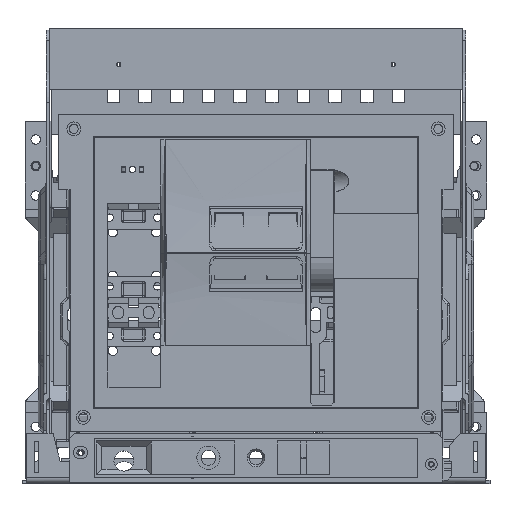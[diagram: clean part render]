
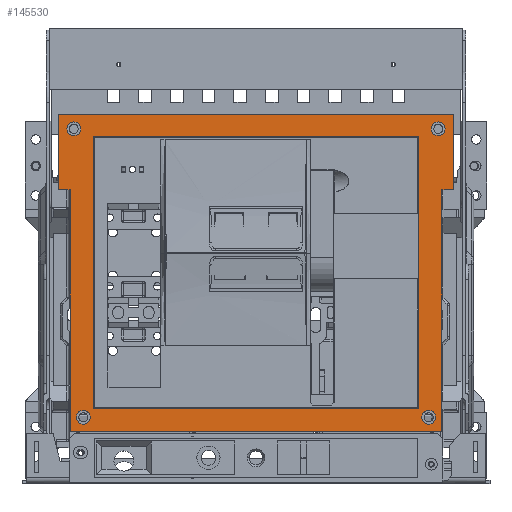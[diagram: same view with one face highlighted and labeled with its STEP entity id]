
A CAD part, top view. The second image highlights one B-rep face of the part: STEP entity #145530.
In plain terms, the highlighted planar face has unit normal (0, 0, 1) as drawn and (0, -1, 0) by its records, which use the part's own axes.
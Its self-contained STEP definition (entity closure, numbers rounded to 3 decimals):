
#133804=DIRECTION('',(0.,0.,-1.));
#133805=VECTOR('',#133804,256.);
#133806=CARTESIAN_POINT('',(154.,44.,117.5));
#133807=LINE('',#133806,#133805);
#133833=CARTESIAN_POINT('',(153.,44.,117.5));
#133834=DIRECTION('',(0.,1.,0.));
#133835=DIRECTION('',(0.,0.,1.));
#133836=AXIS2_PLACEMENT_3D('',#133833,#133834,#133835);
#133871=DIRECTION('',(-1.,0.,0.));
#133872=VECTOR('',#133871,306.);
#133873=CARTESIAN_POINT('',(153.,44.,118.5));
#133874=LINE('',#133873,#133872);
#133900=CARTESIAN_POINT('',(-153.,44.,117.5));
#133901=DIRECTION('',(0.,1.,0.));
#133902=DIRECTION('',(-1.,0.,0.));
#133903=AXIS2_PLACEMENT_3D('',#133900,#133901,#133902);
#133968=DIRECTION('',(0.,0.,1.));
#133969=VECTOR('',#133968,256.);
#133970=CARTESIAN_POINT('',(-154.,44.,-138.5));
#133971=LINE('',#133970,#133969);
#133997=CARTESIAN_POINT('',(-153.,44.,-138.5));
#133998=DIRECTION('',(0.,1.,0.));
#133999=DIRECTION('',(0.,0.,-1.));
#134000=AXIS2_PLACEMENT_3D('',#133997,#133998,#133999);
#134057=CARTESIAN_POINT('',(153.,44.,-138.5));
#134058=DIRECTION('',(0.,1.,0.));
#134059=DIRECTION('',(1.,0.,0.));
#134060=AXIS2_PLACEMENT_3D('',#134057,#134058,#134059);
#134065=DIRECTION('',(-1.,0.,0.));
#134066=VECTOR('',#134065,306.);
#134067=CARTESIAN_POINT('',(153.,44.,-139.5));
#134068=LINE('',#134067,#134066);
#134072=CARTESIAN_POINT('',(-163.5,44.,126.5));
#134073=DIRECTION('',(0.,-1.,0.));
#134074=DIRECTION('',(-1.,0.,0.));
#134075=AXIS2_PLACEMENT_3D('',#134072,#134073,#134074);
#134080=CARTESIAN_POINT('',(-163.5,44.,126.5));
#134081=DIRECTION('',(0.,-1.,0.));
#134082=DIRECTION('',(1.,0.,0.));
#134083=AXIS2_PLACEMENT_3D('',#134080,#134081,#134082);
#134088=CARTESIAN_POINT('',(163.5,44.,126.5));
#134089=DIRECTION('',(0.,-1.,0.));
#134090=DIRECTION('',(-1.,0.,0.));
#134091=AXIS2_PLACEMENT_3D('',#134088,#134089,#134090);
#134096=CARTESIAN_POINT('',(163.5,44.,126.5));
#134097=DIRECTION('',(0.,-1.,0.));
#134098=DIRECTION('',(1.,0.,0.));
#134099=AXIS2_PLACEMENT_3D('',#134096,#134097,#134098);
#134104=CARTESIAN_POINT('',(172.5,44.,-146.5));
#134105=DIRECTION('',(0.,-1.,0.));
#134106=DIRECTION('',(-1.,0.,0.));
#134107=AXIS2_PLACEMENT_3D('',#134104,#134105,#134106);
#134112=CARTESIAN_POINT('',(172.5,44.,-146.5));
#134113=DIRECTION('',(0.,-1.,0.));
#134114=DIRECTION('',(1.,0.,0.));
#134115=AXIS2_PLACEMENT_3D('',#134112,#134113,#134114);
#134120=CARTESIAN_POINT('',(-172.5,44.,-146.5));
#134121=DIRECTION('',(0.,-1.,0.));
#134122=DIRECTION('',(-1.,0.,0.));
#134123=AXIS2_PLACEMENT_3D('',#134120,#134121,#134122);
#134128=CARTESIAN_POINT('',(-172.5,44.,-146.5));
#134129=DIRECTION('',(0.,-1.,0.));
#134130=DIRECTION('',(1.,0.,0.));
#134131=AXIS2_PLACEMENT_3D('',#134128,#134129,#134130);
#134136=DIRECTION('',(0.,0.,1.));
#134137=VECTOR('',#134136,229.);
#134138=CARTESIAN_POINT('',(-176.,44.,-89.));
#134139=LINE('',#134138,#134137);
#134143=DIRECTION('',(0.,0.,-1.));
#134144=VECTOR('',#134143,229.);
#134145=CARTESIAN_POINT('',(176.,44.,140.));
#134146=LINE('',#134145,#134144);
#134150=DIRECTION('',(-1.,0.,0.));
#134151=VECTOR('',#134150,11.);
#134152=CARTESIAN_POINT('',(187.,44.,-89.));
#134153=LINE('',#134152,#134151);
#134157=DIRECTION('',(0.,0.,1.));
#134158=VECTOR('',#134157,71.);
#134159=CARTESIAN_POINT('',(187.,44.,-160.));
#134160=LINE('',#134159,#134158);
#134164=DIRECTION('',(1.,0.,0.));
#134165=VECTOR('',#134164,374.);
#134166=CARTESIAN_POINT('',(-187.,44.,-160.));
#134167=LINE('',#134166,#134165);
#134171=DIRECTION('',(0.,0.,-1.));
#134172=VECTOR('',#134171,71.);
#134173=CARTESIAN_POINT('',(-187.,44.,-89.));
#134174=LINE('',#134173,#134172);
#134178=DIRECTION('',(-1.,0.,0.));
#134179=VECTOR('',#134178,11.);
#134180=CARTESIAN_POINT('',(-176.,44.,-89.));
#134181=LINE('',#134180,#134179);
#140651=DIRECTION('',(1.,0.,0.));
#140652=VECTOR('',#140651,352.);
#140653=CARTESIAN_POINT('',(-176.,44.,140.));
#140654=LINE('',#140653,#140652);
#143431=CARTESIAN_POINT('',(-187.,44.,-89.));
#143432=CARTESIAN_POINT('',(-187.,44.,-160.));
#143433=VERTEX_POINT('',#143431);
#143434=VERTEX_POINT('',#143432);
#143435=CARTESIAN_POINT('',(187.,44.,-160.));
#143436=VERTEX_POINT('',#143435);
#143437=CARTESIAN_POINT('',(187.,44.,-89.));
#143438=VERTEX_POINT('',#143437);
#143443=CARTESIAN_POINT('',(-176.,44.,140.));
#143444=CARTESIAN_POINT('',(176.,44.,140.));
#143445=VERTEX_POINT('',#143443);
#143446=VERTEX_POINT('',#143444);
#144527=CARTESIAN_POINT('',(157.,44.,126.5));
#144528=CARTESIAN_POINT('',(170.,44.,126.5));
#144529=VERTEX_POINT('',#144527);
#144530=VERTEX_POINT('',#144528);
#144531=CARTESIAN_POINT('',(-170.,44.,126.5));
#144532=CARTESIAN_POINT('',(-157.,44.,126.5));
#144533=VERTEX_POINT('',#144531);
#144534=VERTEX_POINT('',#144532);
#144814=CARTESIAN_POINT('',(-176.,44.,-89.));
#144815=VERTEX_POINT('',#144814);
#144816=CARTESIAN_POINT('',(176.,44.,-89.));
#144817=VERTEX_POINT('',#144816);
#144893=CARTESIAN_POINT('',(-154.,44.,-138.5));
#144895=VERTEX_POINT('',#144893);
#144897=CARTESIAN_POINT('',(-153.,44.,-139.5));
#144899=VERTEX_POINT('',#144897);
#144900=CARTESIAN_POINT('',(-153.,44.,118.5));
#144902=VERTEX_POINT('',#144900);
#144904=CARTESIAN_POINT('',(-154.,44.,117.5));
#144906=VERTEX_POINT('',#144904);
#144909=CARTESIAN_POINT('',(154.,44.,117.5));
#144911=VERTEX_POINT('',#144909);
#144913=CARTESIAN_POINT('',(153.,44.,118.5));
#144915=VERTEX_POINT('',#144913);
#144936=CARTESIAN_POINT('',(153.,44.,-139.5));
#144937=VERTEX_POINT('',#144936);
#144938=CARTESIAN_POINT('',(154.,44.,-138.5));
#144939=VERTEX_POINT('',#144938);
#144948=CARTESIAN_POINT('',(166.,44.,-146.5));
#144949=CARTESIAN_POINT('',(179.,44.,-146.5));
#144950=VERTEX_POINT('',#144948);
#144951=VERTEX_POINT('',#144949);
#144952=CARTESIAN_POINT('',(-179.,44.,-146.5));
#144953=CARTESIAN_POINT('',(-166.,44.,-146.5));
#144954=VERTEX_POINT('',#144952);
#144955=VERTEX_POINT('',#144953);
#145473=CARTESIAN_POINT('',(0.,44.,0.));
#145474=DIRECTION('',(0.,-1.,0.));
#145475=DIRECTION('',(0.,0.,-1.));
#145476=AXIS2_PLACEMENT_3D('',#145473,#145474,#145475);
#145477=PLANE('',#145476);
#145479=ORIENTED_EDGE('',*,*,#145478,.T.);
#145481=ORIENTED_EDGE('',*,*,#145480,.T.);
#145483=ORIENTED_EDGE('',*,*,#145482,.T.);
#145485=ORIENTED_EDGE('',*,*,#145484,.F.);
#145487=ORIENTED_EDGE('',*,*,#145486,.F.);
#145489=ORIENTED_EDGE('',*,*,#145488,.F.);
#145491=ORIENTED_EDGE('',*,*,#145490,.F.);
#145493=ORIENTED_EDGE('',*,*,#145492,.F.);
#145494=EDGE_LOOP('',(#145479,#145481,#145483,#145485,#145487,#145489,#145491,
#145493));
#145495=FACE_OUTER_BOUND('',#145494,.F.);
#145497=ORIENTED_EDGE('',*,*,#145496,.T.);
#145499=ORIENTED_EDGE('',*,*,#145498,.T.);
#145500=EDGE_LOOP('',(#145497,#145499));
#145501=FACE_BOUND('',#145500,.F.);
#145503=ORIENTED_EDGE('',*,*,#145502,.T.);
#145505=ORIENTED_EDGE('',*,*,#145504,.T.);
#145506=EDGE_LOOP('',(#145503,#145505));
#145507=FACE_BOUND('',#145506,.F.);
#145509=ORIENTED_EDGE('',*,*,#145508,.T.);
#145511=ORIENTED_EDGE('',*,*,#145510,.T.);
#145512=EDGE_LOOP('',(#145509,#145511));
#145513=FACE_BOUND('',#145512,.F.);
#145515=ORIENTED_EDGE('',*,*,#145514,.T.);
#145517=ORIENTED_EDGE('',*,*,#145516,.T.);
#145518=EDGE_LOOP('',(#145515,#145517));
#145519=FACE_BOUND('',#145518,.F.);
#145520=ORIENTED_EDGE('',*,*,#145268,.F.);
#145521=ORIENTED_EDGE('',*,*,#145286,.F.);
#145522=ORIENTED_EDGE('',*,*,#145324,.T.);
#145523=ORIENTED_EDGE('',*,*,#145341,.F.);
#145524=ORIENTED_EDGE('',*,*,#145386,.F.);
#145525=ORIENTED_EDGE('',*,*,#145403,.F.);
#145526=ORIENTED_EDGE('',*,*,#145468,.F.);
#145527=ORIENTED_EDGE('',*,*,#145455,.F.);
#145528=EDGE_LOOP('',(#145520,#145521,#145522,#145523,#145524,#145525,#145526,
#145527));
#145529=FACE_BOUND('',#145528,.F.);
#145530=ADVANCED_FACE('',(#145495,#145501,#145507,#145513,#145519,#145529),
#145477,.T.);
#133837=CIRCLE('',#133836,1.);
#133904=CIRCLE('',#133903,1.);
#134001=CIRCLE('',#134000,1.);
#134061=CIRCLE('',#134060,1.);
#134076=CIRCLE('',#134075,6.5);
#134084=CIRCLE('',#134083,6.5);
#134092=CIRCLE('',#134091,6.5);
#134100=CIRCLE('',#134099,6.5);
#134108=CIRCLE('',#134107,6.5);
#134116=CIRCLE('',#134115,6.5);
#134124=CIRCLE('',#134123,6.5);
#134132=CIRCLE('',#134131,6.5);
#145268=EDGE_CURVE('',#144911,#144939,#133807,.T.);
#145286=EDGE_CURVE('',#144915,#144911,#133837,.T.);
#145324=EDGE_CURVE('',#144915,#144902,#133874,.T.);
#145341=EDGE_CURVE('',#144906,#144902,#133904,.T.);
#145386=EDGE_CURVE('',#144895,#144906,#133971,.T.);
#145403=EDGE_CURVE('',#144899,#144895,#134001,.T.);
#145455=EDGE_CURVE('',#144939,#144937,#134061,.T.);
#145468=EDGE_CURVE('',#144937,#144899,#134068,.T.);
#145478=EDGE_CURVE('',#144815,#143445,#134139,.T.);
#145480=EDGE_CURVE('',#143445,#143446,#140654,.T.);
#145482=EDGE_CURVE('',#143446,#144817,#134146,.T.);
#145484=EDGE_CURVE('',#143438,#144817,#134153,.T.);
#145486=EDGE_CURVE('',#143436,#143438,#134160,.T.);
#145488=EDGE_CURVE('',#143434,#143436,#134167,.T.);
#145490=EDGE_CURVE('',#143433,#143434,#134174,.T.);
#145492=EDGE_CURVE('',#144815,#143433,#134181,.T.);
#145496=EDGE_CURVE('',#144529,#144530,#134092,.T.);
#145498=EDGE_CURVE('',#144530,#144529,#134100,.T.);
#145502=EDGE_CURVE('',#144950,#144951,#134108,.T.);
#145504=EDGE_CURVE('',#144951,#144950,#134116,.T.);
#145508=EDGE_CURVE('',#144954,#144955,#134124,.T.);
#145510=EDGE_CURVE('',#144955,#144954,#134132,.T.);
#145514=EDGE_CURVE('',#144533,#144534,#134076,.T.);
#145516=EDGE_CURVE('',#144534,#144533,#134084,.T.);
